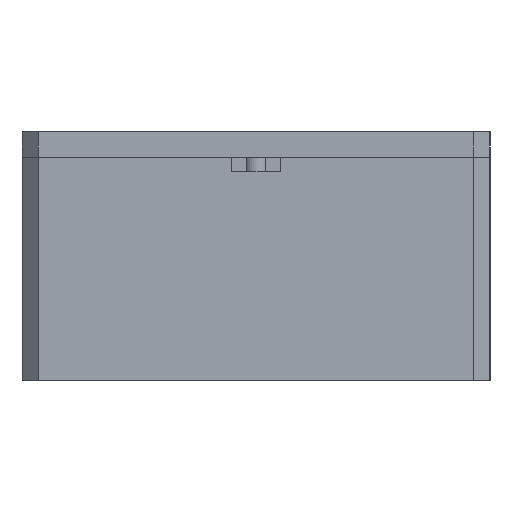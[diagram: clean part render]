
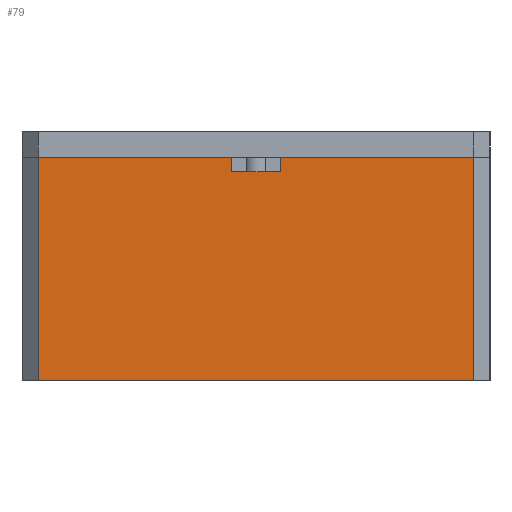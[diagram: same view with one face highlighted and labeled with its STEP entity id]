
A CAD part, left-side view. The second image highlights one B-rep face of the part: STEP entity #79.
In plain terms, the highlighted planar face has unit normal (-1, 0, 0).
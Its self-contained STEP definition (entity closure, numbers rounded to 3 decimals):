
#79 = ADVANCED_FACE('',(#80),#94,.F.);
#80 = FACE_BOUND('',#81,.F.);
#81 = EDGE_LOOP('',(#82,#117,#145,#173,#201,#224,#250,#276));
#82 = ORIENTED_EDGE('',*,*,#83,.F.);
#83 = EDGE_CURVE('',#84,#86,#88,.T.);
#84 = VERTEX_POINT('',#85);
#85 = CARTESIAN_POINT('',(-31.925,-13.525,13.85));
#86 = VERTEX_POINT('',#87);
#87 = CARTESIAN_POINT('',(-31.925,-1.5,13.85));
#88 = SURFACE_CURVE('',#89,(#93,#105),.PCURVE_S1.);
#89 = LINE('',#90,#91);
#90 = CARTESIAN_POINT('',(-31.925,-14.525,13.85));
#91 = VECTOR('',#92,1.);
#92 = DIRECTION('',(-0.,1.,0.));
#93 = PCURVE('',#94,#99);
#94 = PLANE('',#95);
#95 = AXIS2_PLACEMENT_3D('',#96,#97,#98);
#96 = CARTESIAN_POINT('',(-31.925,-14.525,0.));
#97 = DIRECTION('',(1.,0.,-0.));
#98 = DIRECTION('',(0.,0.,1.));
#99 = DEFINITIONAL_REPRESENTATION('',(#100),#104);
#100 = LINE('',#101,#102);
#101 = CARTESIAN_POINT('',(13.85,0.));
#102 = VECTOR('',#103,1.);
#103 = DIRECTION('',(0.,-1.));
#104 = ( GEOMETRIC_REPRESENTATION_CONTEXT(2) 
PARAMETRIC_REPRESENTATION_CONTEXT() REPRESENTATION_CONTEXT('2D SPACE',''
  ) );
#105 = PCURVE('',#106,#111);
#106 = PLANE('',#107);
#107 = AXIS2_PLACEMENT_3D('',#108,#109,#110);
#108 = CARTESIAN_POINT('',(-31.925,-14.525,13.85));
#109 = DIRECTION('',(0.,0.,1.));
#110 = DIRECTION('',(1.,0.,-0.));
#111 = DEFINITIONAL_REPRESENTATION('',(#112),#116);
#112 = LINE('',#113,#114);
#113 = CARTESIAN_POINT('',(0.,0.));
#114 = VECTOR('',#115,1.);
#115 = DIRECTION('',(0.,1.));
#116 = ( GEOMETRIC_REPRESENTATION_CONTEXT(2) 
PARAMETRIC_REPRESENTATION_CONTEXT() REPRESENTATION_CONTEXT('2D SPACE',''
  ) );
#117 = ORIENTED_EDGE('',*,*,#118,.F.);
#118 = EDGE_CURVE('',#119,#84,#121,.T.);
#119 = VERTEX_POINT('',#120);
#120 = CARTESIAN_POINT('',(-31.925,-13.525,0.));
#121 = SURFACE_CURVE('',#122,(#126,#133),.PCURVE_S1.);
#122 = LINE('',#123,#124);
#123 = CARTESIAN_POINT('',(-31.925,-13.525,0.));
#124 = VECTOR('',#125,1.);
#125 = DIRECTION('',(0.,0.,1.));
#126 = PCURVE('',#94,#127);
#127 = DEFINITIONAL_REPRESENTATION('',(#128),#132);
#128 = LINE('',#129,#130);
#129 = CARTESIAN_POINT('',(0.,-1.));
#130 = VECTOR('',#131,1.);
#131 = DIRECTION('',(1.,0.));
#132 = ( GEOMETRIC_REPRESENTATION_CONTEXT(2) 
PARAMETRIC_REPRESENTATION_CONTEXT() REPRESENTATION_CONTEXT('2D SPACE',''
  ) );
#133 = PCURVE('',#134,#139);
#134 = PLANE('',#135);
#135 = AXIS2_PLACEMENT_3D('',#136,#137,#138);
#136 = CARTESIAN_POINT('',(-31.425,-14.025,0.));
#137 = DIRECTION('',(-0.707,-0.707,0.));
#138 = DIRECTION('',(-0.,-0.,-1.));
#139 = DEFINITIONAL_REPRESENTATION('',(#140),#144);
#140 = LINE('',#141,#142);
#141 = CARTESIAN_POINT('',(-0.,-0.707));
#142 = VECTOR('',#143,1.);
#143 = DIRECTION('',(-1.,0.));
#144 = ( GEOMETRIC_REPRESENTATION_CONTEXT(2) 
PARAMETRIC_REPRESENTATION_CONTEXT() REPRESENTATION_CONTEXT('2D SPACE',''
  ) );
#145 = ORIENTED_EDGE('',*,*,#146,.T.);
#146 = EDGE_CURVE('',#119,#147,#149,.T.);
#147 = VERTEX_POINT('',#148);
#148 = CARTESIAN_POINT('',(-31.925,13.525,0.));
#149 = SURFACE_CURVE('',#150,(#154,#161),.PCURVE_S1.);
#150 = LINE('',#151,#152);
#151 = CARTESIAN_POINT('',(-31.925,-14.525,0.));
#152 = VECTOR('',#153,1.);
#153 = DIRECTION('',(-0.,1.,0.));
#154 = PCURVE('',#94,#155);
#155 = DEFINITIONAL_REPRESENTATION('',(#156),#160);
#156 = LINE('',#157,#158);
#157 = CARTESIAN_POINT('',(0.,0.));
#158 = VECTOR('',#159,1.);
#159 = DIRECTION('',(0.,-1.));
#160 = ( GEOMETRIC_REPRESENTATION_CONTEXT(2) 
PARAMETRIC_REPRESENTATION_CONTEXT() REPRESENTATION_CONTEXT('2D SPACE',''
  ) );
#161 = PCURVE('',#162,#167);
#162 = PLANE('',#163);
#163 = AXIS2_PLACEMENT_3D('',#164,#165,#166);
#164 = CARTESIAN_POINT('',(-31.925,-14.525,0.));
#165 = DIRECTION('',(0.,0.,1.));
#166 = DIRECTION('',(1.,0.,-0.));
#167 = DEFINITIONAL_REPRESENTATION('',(#168),#172);
#168 = LINE('',#169,#170);
#169 = CARTESIAN_POINT('',(0.,0.));
#170 = VECTOR('',#171,1.);
#171 = DIRECTION('',(0.,1.));
#172 = ( GEOMETRIC_REPRESENTATION_CONTEXT(2) 
PARAMETRIC_REPRESENTATION_CONTEXT() REPRESENTATION_CONTEXT('2D SPACE',''
  ) );
#173 = ORIENTED_EDGE('',*,*,#174,.T.);
#174 = EDGE_CURVE('',#147,#175,#177,.T.);
#175 = VERTEX_POINT('',#176);
#176 = CARTESIAN_POINT('',(-31.925,13.525,13.85));
#177 = SURFACE_CURVE('',#178,(#182,#189),.PCURVE_S1.);
#178 = LINE('',#179,#180);
#179 = CARTESIAN_POINT('',(-31.925,13.525,0.));
#180 = VECTOR('',#181,1.);
#181 = DIRECTION('',(0.,0.,1.));
#182 = PCURVE('',#94,#183);
#183 = DEFINITIONAL_REPRESENTATION('',(#184),#188);
#184 = LINE('',#185,#186);
#185 = CARTESIAN_POINT('',(0.,-28.05));
#186 = VECTOR('',#187,1.);
#187 = DIRECTION('',(1.,0.));
#188 = ( GEOMETRIC_REPRESENTATION_CONTEXT(2) 
PARAMETRIC_REPRESENTATION_CONTEXT() REPRESENTATION_CONTEXT('2D SPACE',''
  ) );
#189 = PCURVE('',#190,#195);
#190 = PLANE('',#191);
#191 = AXIS2_PLACEMENT_3D('',#192,#193,#194);
#192 = CARTESIAN_POINT('',(-31.425,14.025,0.));
#193 = DIRECTION('',(0.707,-0.707,0.));
#194 = DIRECTION('',(-0.,-0.,-1.));
#195 = DEFINITIONAL_REPRESENTATION('',(#196),#200);
#196 = LINE('',#197,#198);
#197 = CARTESIAN_POINT('',(-0.,-0.707));
#198 = VECTOR('',#199,1.);
#199 = DIRECTION('',(-1.,0.));
#200 = ( GEOMETRIC_REPRESENTATION_CONTEXT(2) 
PARAMETRIC_REPRESENTATION_CONTEXT() REPRESENTATION_CONTEXT('2D SPACE',''
  ) );
#201 = ORIENTED_EDGE('',*,*,#202,.F.);
#202 = EDGE_CURVE('',#203,#175,#205,.T.);
#203 = VERTEX_POINT('',#204);
#204 = CARTESIAN_POINT('',(-31.925,1.5,13.85));
#205 = SURFACE_CURVE('',#206,(#210,#217),.PCURVE_S1.);
#206 = LINE('',#207,#208);
#207 = CARTESIAN_POINT('',(-31.925,-14.525,13.85));
#208 = VECTOR('',#209,1.);
#209 = DIRECTION('',(-0.,1.,0.));
#210 = PCURVE('',#94,#211);
#211 = DEFINITIONAL_REPRESENTATION('',(#212),#216);
#212 = LINE('',#213,#214);
#213 = CARTESIAN_POINT('',(13.85,0.));
#214 = VECTOR('',#215,1.);
#215 = DIRECTION('',(0.,-1.));
#216 = ( GEOMETRIC_REPRESENTATION_CONTEXT(2) 
PARAMETRIC_REPRESENTATION_CONTEXT() REPRESENTATION_CONTEXT('2D SPACE',''
  ) );
#217 = PCURVE('',#106,#218);
#218 = DEFINITIONAL_REPRESENTATION('',(#219),#223);
#219 = LINE('',#220,#221);
#220 = CARTESIAN_POINT('',(0.,0.));
#221 = VECTOR('',#222,1.);
#222 = DIRECTION('',(0.,1.));
#223 = ( GEOMETRIC_REPRESENTATION_CONTEXT(2) 
PARAMETRIC_REPRESENTATION_CONTEXT() REPRESENTATION_CONTEXT('2D SPACE',''
  ) );
#224 = ORIENTED_EDGE('',*,*,#225,.F.);
#225 = EDGE_CURVE('',#226,#203,#228,.T.);
#226 = VERTEX_POINT('',#227);
#227 = CARTESIAN_POINT('',(-31.925,1.5,12.95));
#228 = SURFACE_CURVE('',#229,(#233,#239),.PCURVE_S1.);
#229 = LINE('',#230,#231);
#230 = CARTESIAN_POINT('',(-31.925,1.5,6.475));
#231 = VECTOR('',#232,1.);
#232 = DIRECTION('',(0.,0.,1.));
#233 = PCURVE('',#94,#234);
#234 = DEFINITIONAL_REPRESENTATION('',(#235),#238);
#235 = B_SPLINE_CURVE_WITH_KNOTS('',1,(#236,#237),.UNSPECIFIED.,.F.,.F.,
  (2,2),(6.475,7.375),.PIECEWISE_BEZIER_KNOTS.);
#236 = CARTESIAN_POINT('',(12.95,-16.025));
#237 = CARTESIAN_POINT('',(13.85,-16.025));
#238 = ( GEOMETRIC_REPRESENTATION_CONTEXT(2) 
PARAMETRIC_REPRESENTATION_CONTEXT() REPRESENTATION_CONTEXT('2D SPACE',''
  ) );
#239 = PCURVE('',#240,#245);
#240 = PLANE('',#241);
#241 = AXIS2_PLACEMENT_3D('',#242,#243,#244);
#242 = CARTESIAN_POINT('',(-32.125,1.5,12.95));
#243 = DIRECTION('',(-0.,1.,0.));
#244 = DIRECTION('',(0.,0.,1.));
#245 = DEFINITIONAL_REPRESENTATION('',(#246),#249);
#246 = B_SPLINE_CURVE_WITH_KNOTS('',1,(#247,#248),.UNSPECIFIED.,.F.,.F.,
  (2,2),(6.475,7.375),.PIECEWISE_BEZIER_KNOTS.);
#247 = CARTESIAN_POINT('',(0.,0.2));
#248 = CARTESIAN_POINT('',(0.9,0.2));
#249 = ( GEOMETRIC_REPRESENTATION_CONTEXT(2) 
PARAMETRIC_REPRESENTATION_CONTEXT() REPRESENTATION_CONTEXT('2D SPACE',''
  ) );
#250 = ORIENTED_EDGE('',*,*,#251,.T.);
#251 = EDGE_CURVE('',#226,#252,#254,.T.);
#252 = VERTEX_POINT('',#253);
#253 = CARTESIAN_POINT('',(-31.925,-1.5,12.95));
#254 = SURFACE_CURVE('',#255,(#259,#265),.PCURVE_S1.);
#255 = LINE('',#256,#257);
#256 = CARTESIAN_POINT('',(-31.925,-8.013,12.95));
#257 = VECTOR('',#258,1.);
#258 = DIRECTION('',(0.,-1.,0.));
#259 = PCURVE('',#94,#260);
#260 = DEFINITIONAL_REPRESENTATION('',(#261),#264);
#261 = B_SPLINE_CURVE_WITH_KNOTS('',1,(#262,#263),.UNSPECIFIED.,.F.,.F.,
  (2,2),(-9.513,-6.513),.PIECEWISE_BEZIER_KNOTS.);
#262 = CARTESIAN_POINT('',(12.95,-16.025));
#263 = CARTESIAN_POINT('',(12.95,-13.025));
#264 = ( GEOMETRIC_REPRESENTATION_CONTEXT(2) 
PARAMETRIC_REPRESENTATION_CONTEXT() REPRESENTATION_CONTEXT('2D SPACE',''
  ) );
#265 = PCURVE('',#266,#271);
#266 = PLANE('',#267);
#267 = AXIS2_PLACEMENT_3D('',#268,#269,#270);
#268 = CARTESIAN_POINT('',(-32.125,-1.5,12.95));
#269 = DIRECTION('',(0.,0.,1.));
#270 = DIRECTION('',(1.,0.,-0.));
#271 = DEFINITIONAL_REPRESENTATION('',(#272),#275);
#272 = B_SPLINE_CURVE_WITH_KNOTS('',1,(#273,#274),.UNSPECIFIED.,.F.,.F.,
  (2,2),(-9.513,-6.513),.PIECEWISE_BEZIER_KNOTS.);
#273 = CARTESIAN_POINT('',(0.2,3.));
#274 = CARTESIAN_POINT('',(0.2,0.));
#275 = ( GEOMETRIC_REPRESENTATION_CONTEXT(2) 
PARAMETRIC_REPRESENTATION_CONTEXT() REPRESENTATION_CONTEXT('2D SPACE',''
  ) );
#276 = ORIENTED_EDGE('',*,*,#277,.T.);
#277 = EDGE_CURVE('',#252,#86,#278,.T.);
#278 = SURFACE_CURVE('',#279,(#283,#289),.PCURVE_S1.);
#279 = LINE('',#280,#281);
#280 = CARTESIAN_POINT('',(-31.925,-1.5,6.475));
#281 = VECTOR('',#282,1.);
#282 = DIRECTION('',(0.,0.,1.));
#283 = PCURVE('',#94,#284);
#284 = DEFINITIONAL_REPRESENTATION('',(#285),#288);
#285 = B_SPLINE_CURVE_WITH_KNOTS('',1,(#286,#287),.UNSPECIFIED.,.F.,.F.,
  (2,2),(6.475,7.375),.PIECEWISE_BEZIER_KNOTS.);
#286 = CARTESIAN_POINT('',(12.95,-13.025));
#287 = CARTESIAN_POINT('',(13.85,-13.025));
#288 = ( GEOMETRIC_REPRESENTATION_CONTEXT(2) 
PARAMETRIC_REPRESENTATION_CONTEXT() REPRESENTATION_CONTEXT('2D SPACE',''
  ) );
#289 = PCURVE('',#290,#295);
#290 = PLANE('',#291);
#291 = AXIS2_PLACEMENT_3D('',#292,#293,#294);
#292 = CARTESIAN_POINT('',(-32.125,-1.5,12.95));
#293 = DIRECTION('',(-0.,1.,0.));
#294 = DIRECTION('',(0.,0.,1.));
#295 = DEFINITIONAL_REPRESENTATION('',(#296),#299);
#296 = B_SPLINE_CURVE_WITH_KNOTS('',1,(#297,#298),.UNSPECIFIED.,.F.,.F.,
  (2,2),(6.475,7.375),.PIECEWISE_BEZIER_KNOTS.);
#297 = CARTESIAN_POINT('',(0.,0.2));
#298 = CARTESIAN_POINT('',(0.9,0.2));
#299 = ( GEOMETRIC_REPRESENTATION_CONTEXT(2) 
PARAMETRIC_REPRESENTATION_CONTEXT() REPRESENTATION_CONTEXT('2D SPACE',''
  ) );
